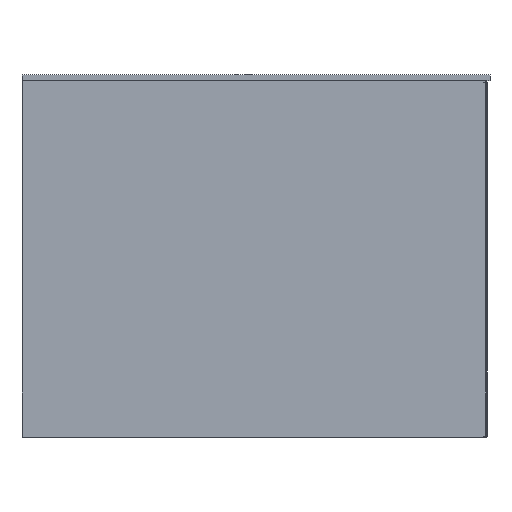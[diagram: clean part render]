
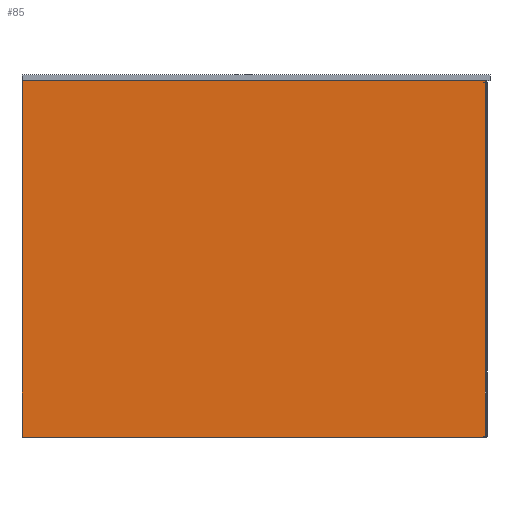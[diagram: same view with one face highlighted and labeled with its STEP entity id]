
A CAD part, front view. The second image highlights one B-rep face of the part: STEP entity #85.
In plain terms, the highlighted planar face has unit normal (0, -1, 0).
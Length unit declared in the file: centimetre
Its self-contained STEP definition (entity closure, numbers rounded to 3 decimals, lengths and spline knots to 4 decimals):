
#85=ADVANCED_FACE('',(#171),#1290,.T.);
#171=FACE_OUTER_BOUND('',#261,.T.);
#261=EDGE_LOOP('',(#509,#510,#511,#512));
#509=ORIENTED_EDGE('',*,*,#820,.T.);
#510=ORIENTED_EDGE('',*,*,#821,.T.);
#511=ORIENTED_EDGE('',*,*,#818,.F.);
#512=ORIENTED_EDGE('',*,*,#822,.T.);
#818=EDGE_CURVE('',#1193,#1194,#999,.T.);
#820=EDGE_CURVE('',#1195,#1196,#1000,.T.);
#821=EDGE_CURVE('',#1196,#1194,#1001,.T.);
#822=EDGE_CURVE('',#1193,#1195,#1002,.T.);
#999=B_SPLINE_CURVE_WITH_KNOTS('',1,(#1907,#1908),.UNSPECIFIED.,.F.,.F.,
(2,2),(0.,38.4),.UNSPECIFIED.);
#1000=B_SPLINE_CURVE_WITH_KNOTS('',1,(#1912,#1913),.UNSPECIFIED.,.F.,.F.,
(2,2),(0.,38.4),.UNSPECIFIED.);
#1001=B_SPLINE_CURVE_WITH_KNOTS('',1,(#1914,#1915),.UNSPECIFIED.,.F.,.F.,
(2,2),(0.,49.9),.UNSPECIFIED.);
#1002=B_SPLINE_CURVE_WITH_KNOTS('',1,(#1916,#1917),.UNSPECIFIED.,.F.,.F.,
(2,2),(0.,49.9),.UNSPECIFIED.);
#1193=VERTEX_POINT('',#1890);
#1194=VERTEX_POINT('',#1891);
#1195=VERTEX_POINT('',#1892);
#1196=VERTEX_POINT('',#1893);
#1290=PLANE('',#1407);
#1407=AXIS2_PLACEMENT_3D('',#1881,#1496,$);
#1496=DIRECTION('',(0.,-1.,0.));
#1881=CARTESIAN_POINT('',(-5.002,0.2,-3.852));
#1890=CARTESIAN_POINT('',(49.9,0.2,38.4));
#1891=CARTESIAN_POINT('',(49.9,0.2,0.));
#1892=CARTESIAN_POINT('',(0.,0.2,38.4));
#1893=CARTESIAN_POINT('',(0.,0.2,0.));
#1907=CARTESIAN_POINT('',(49.9,0.2,38.4));
#1908=CARTESIAN_POINT('',(49.9,0.2,0.));
#1912=CARTESIAN_POINT('',(0.,0.2,38.4));
#1913=CARTESIAN_POINT('',(0.,0.2,0.));
#1914=CARTESIAN_POINT('',(0.,0.2,0.));
#1915=CARTESIAN_POINT('',(49.9,0.2,0.));
#1916=CARTESIAN_POINT('',(49.9,0.2,38.4));
#1917=CARTESIAN_POINT('',(0.,0.2,38.4));
